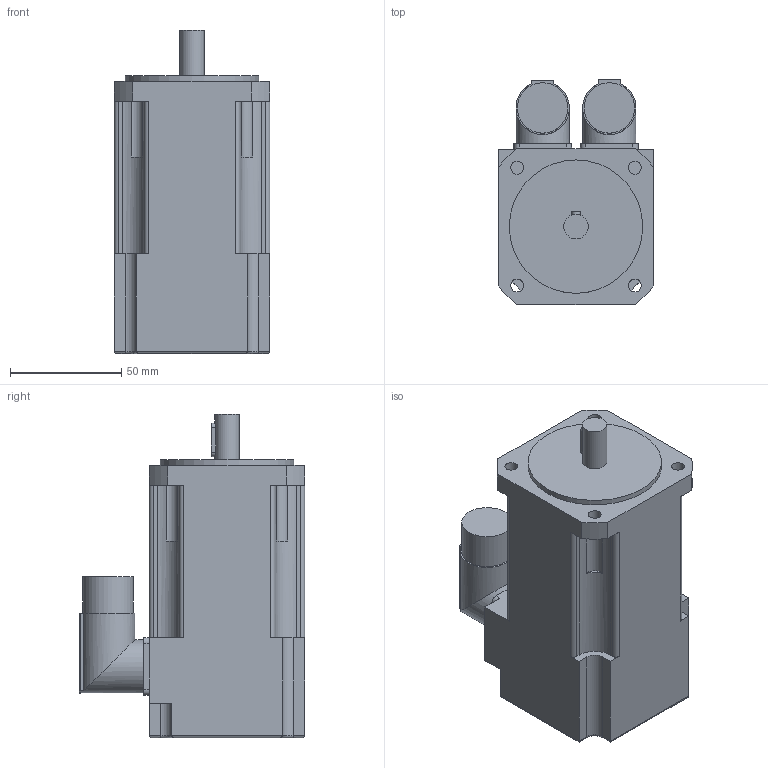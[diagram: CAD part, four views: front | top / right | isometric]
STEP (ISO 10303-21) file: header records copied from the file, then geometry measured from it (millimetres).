
FILE_DESCRIPTION(/* description */ (''),/* implementation_level */ '2;1');
FILE_NAME(/* name */ '\\Lafnas01\disegni\Archivi Lafert\3D\CAD 3D\MODELLI\Assiemi clienti\Serad\Modelli 3D Serad\B36Q\Encoder\Enc Without Brake\B36D6Qxx6ARx2033.ipt.stp',/* time_stamp */ '2015-09-07T10:49:23+02:00',/* author */ ('Pastrello Ylenia'),/* organization */ (''),/* preprocessor_version */ 'ST-DEVELOPER v15.6',/* originating_system */ 'Autodesk Inventor 2015',/* authorisation */ '');
FILE_SCHEMA (('AUTOMOTIVE_DESIGN { 1 0 10303 214 3 1 1 }'));
Length unit declared in the file: millimetre
Products named in the file (1): B36D6Qxx6ARx2033
Bounding box: 70 x 101.5 x 145.5 mm (x, y, z)
Volume: 604248.6 mm3; surface area: 53593 mm2
Topology: 1 solids, 1 shells, 121 faces, 322 edges, 210 vertices
Faces by surface type: plane 59, cylinder 58, torus 4
Full cylindrical faces by diameter (mm): 5.8 x4, 11 x1, 22.7 x2, 24 x2, 60 x1
Entity records: 3806 total; most frequent: CARTESIAN_POINT 678, DIRECTION 676, ORIENTED_EDGE 624, EDGE_CURVE 312, AXIS2_PLACEMENT_3D 244, VERTEX_POINT 210, LINE 188, VECTOR 188
